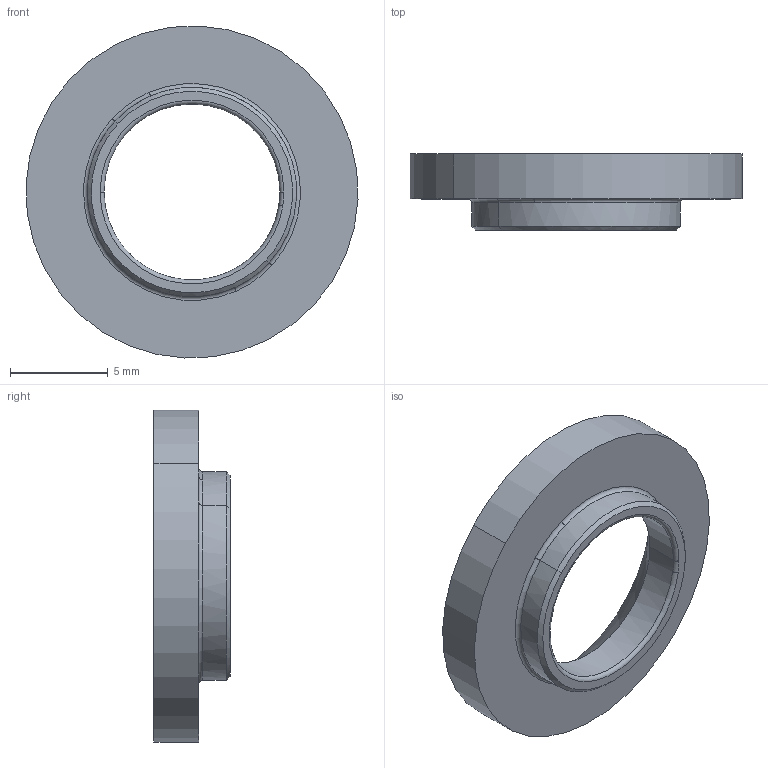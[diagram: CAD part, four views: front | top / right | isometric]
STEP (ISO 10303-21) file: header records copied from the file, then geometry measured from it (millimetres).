
FILE_DESCRIPTION(('CATIA V5 STEP Exchange'),'2;1');
FILE_NAME('F:\1.项目开发\12.模块开发\1.气阀产品\3.VDC阀\3D\VDC-MP05.stp','2021-12-15T01:32:22+00:00',('none'),('none'),'CATIA Version 5 Release 20 GA (IN-10)','CATIA V5 STEP AP214','none');
FILE_SCHEMA(('AUTOMOTIVE_DESIGN { 1 0 10303 214 1 1 1 1 }'));
Length unit declared in the file: millimetre
Products named in the file (1): VDC-MP05
Bounding box: 16.98 x 3.9 x 16.98 mm (x, y, z)
Volume: 352.3 mm3; surface area: 576.4 mm2
Topology: 1 solids, 1 shells, 21 faces, 46 edges, 28 vertices
Faces by surface type: torus 7, cylinder 6, cone 5, plane 3
Entity records: 753 total; most frequent: CARTESIAN_POINT 285, ORIENTED_EDGE 92, DIRECTION 79, AXIS2_PLACEMENT_3D 49, EDGE_CURVE 46, CIRCLE 28, VERTEX_POINT 28, EDGE_LOOP 24
